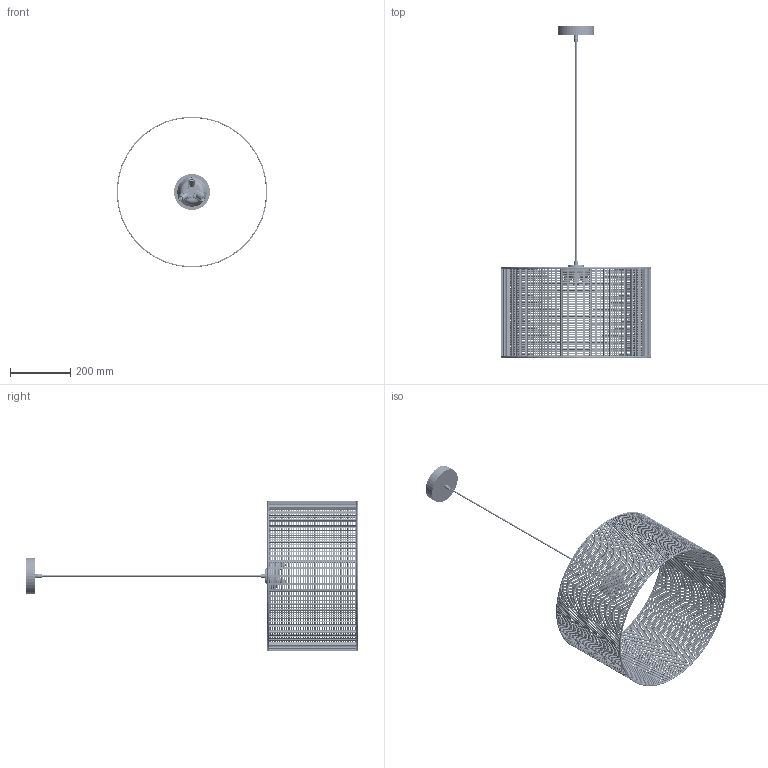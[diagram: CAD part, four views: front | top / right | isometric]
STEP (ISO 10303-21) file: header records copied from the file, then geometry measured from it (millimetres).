
FILE_DESCRIPTION(/* description */ (''),/* implementation_level */ '2;1');
FILE_NAME(/* name */ 'C:/Users/kubaw/OneDrive/Pulpit/Nowy folder (3)/6582_JUTA v6.step',/* time_stamp */ '2021-12-11T14:52:53+01:00',/* author */ (''),/* organization */ (''),/* preprocessor_version */ 'ST-DEVELOPER v18.1',/* originating_system */ 'Autodesk Translation Framework v10.10.0.1391',/* authorisation */ '');
FILE_SCHEMA (('AUTOMOTIVE_DESIGN { 1 0 10303 214 3 1 1 }'));
Products named in the file (2): 6582_JUTA; MOCOWANIE_JUTA4
Assembly tree (1 placements, depth 2):
  6582_JUTA
    MOCOWANIE_JUTA4
Bounding box: 500 x 1100 x 500 mm (x, y, z)
Volume: 821644.6 mm3; surface area: 1522902.3 mm2
Topology: 1313 solids, 1313 shells, 16576 faces, 33811 edges, 19868 vertices
Faces by surface type: cylinder 8684, plane 6651, torus 1219, bspline 18, cone 4
Full cylindrical faces by diameter (mm): 2 x4, 5 x1, 8 x1, 12 x1, 14.023 x15, 14.947 x2, 16 x3, 16.25 x15, 20 x3, 50 x1, 120 x1, 492 x2, 496 x300, 497 x300, 500 x2
Entity records: 432796 total; most frequent: DIRECTION 79726, CARTESIAN_POINT 76239, ORIENTED_EDGE 67622, EDGE_CURVE 33811, AXIS2_PLACEMENT_3D 29516, LINE 20694, VECTOR 20694, VERTEX_POINT 19868
